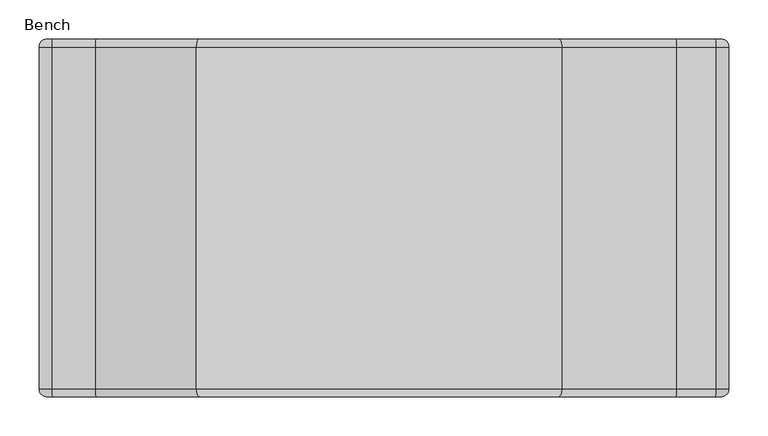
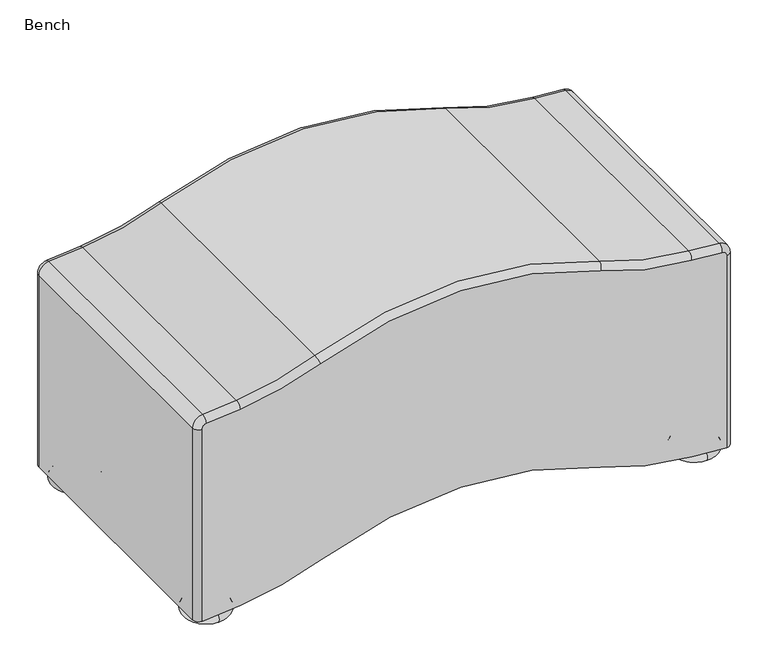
"""IFC4 building model written with IfcOpenShell, lengths in millimetres: furniture geometry, Steelcase Coalesse - Ripple - Seating - Little Ripple Wave Bench : Bench."""

from ifc_helpers import new_model, si_unit, point, frame, origin, place, context, project, spatial, polyline, circle_curve, ellipse_curve, trimmed, source, transform, mapped, element, save
from ifc_brep_helpers import plane_surface, cylinder_surface, revolved_surface, advanced_brep


def bench_b9d89473(model_context):
    return source(origin(), model_context, "Body", "AdvancedBrep", [
        advanced_brep(
        [(969.3020827, -550.5474749, 17.5807644), (914.9845406, -550.5474749, 22.2429666), (764.3826322, -550.5474749, 56.5722302), (307.1826322, -550.5474749, 56.5722302), (174.6739871, -550.5474749, 23.3737842), (114.1610712, -550.5474749, 18.0043345), (111.2850099, -550.5474749, 18.0043345), (111.2850099, -550.5474749, 350.8638395), (118.5982586, -550.5474749, 358.7938901), (174.3939967, -550.5474749, 363.783829), (306.0799806, -550.5474749, 396.7761672), (765.4852837, -550.5474749, 396.7761672), (915.1419897, -550.5474749, 362.6623597), (965.1060006, -550.5474749, 358.5032356), (972.1781439, -550.5474749, 350.5964285), (972.1781439, -550.5474749, 17.5807644), (114.1610712, -1007.7474749, 18.0043345), (174.6739871, -1007.7474749, 23.3737842), (307.1826322, -1007.7474749, 56.5722302), (764.3826322, -1007.7474749, 56.5722302), (914.9845406, -1007.7474749, 22.2429666), (969.3020827, -1007.7474749, 17.5807644), (972.0741492, -1007.7474749, 17.5807644), (972.0741492, -1007.7474749, 350.5964285), (965.0944468, -1007.7474749, 358.3998847), (915.1362965, -1007.7474749, 362.5585209), (765.4454132, -1007.7474749, 396.680119), (306.1198511, -1007.7474749, 396.680119), (174.4041208, -1007.7474749, 363.6803283), (118.6066609, -1007.7474749, 358.6902353), (111.3890046, -1007.7474749, 350.8638395), (111.3890046, -1007.7474749, 18.0043345), (982.2341492, -560.6034802, 17.5807644), (982.2341492, -997.5874749, 17.5807644), (982.2341492, -560.6034802, 350.5964285), (982.2341492, -997.5874749, 350.5964285), (966.2232222, -560.6034802, 368.4969866), (966.2232222, -997.5874749, 368.4969866), (915.6925025, -560.6034802, 372.7032849), (915.6925025, -997.5874749, 372.7032849), (769.3406499, -560.6034802, 406.0637607), (769.3406499, -997.5874749, 406.0637607), (302.2246143, -560.6034802, 406.0637607), (302.2246143, -997.5874749, 406.0637607), (173.4150243, -560.6034802, 373.7920684), (173.4150243, -997.5874749, 373.7920684), (117.7857804, -560.6034802, 368.8170194), (117.7857804, -997.5874749, 368.8170194), (101.2290046, -560.6034802, 350.8638395), (101.2290046, -997.5874749, 350.8638395), (101.2290046, -997.5874749, 18.0043345), (101.2290046, -560.6034802, 18.0043345)],
        [
            (0, 1, circle_curve(frame((866.6058872, -550.5474749, -860.1458934), z_axis=(0.0, -1.0, 0.0), x_axis=(1.0, 0.0, 0.0)), 883.7140909)),
            (1, 2, circle_curve(frame((940.0713693, -550.5474749, 479.8071327), z_axis=(0.0, 1.0, 0.0), x_axis=(1.0, 0.0, 0.0)), 458.2513667)),
            (2, 3, circle_curve(frame((535.7826322, -550.5474749, -494.1261256), z_axis=(0.0, -1.0, 0.0), x_axis=(1.0, 0.0, 0.0)), 596.2605464)),
            (3, 4, circle_curve(frame((129.5750519, -550.5474749, 484.4296338), z_axis=(0.0, 1.0, 0.0), x_axis=(1.0, 0.0, 0.0)), 463.2563117)),
            (4, 5, circle_curve(frame((-153.6804877, -550.5474749, 3380.2102751), z_axis=(0.0, 1.0, 0.0), x_axis=(1.0, 0.0, 0.0)), 3372.8575255)),
            (5, 6),
            (6, 7),
            (7, 8, circle_curve(frame((119.2410712, -550.5474749, 350.8638395), z_axis=(0.0, 1.0, 0.0), x_axis=(-0.08079532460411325, 0.0, 0.9967307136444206)), 7.9560612)),
            (8, 9, circle_curve(frame((-153.6804877, -550.5474749, 3717.7579199), z_axis=(0.0, -1.0, 0.0), x_axis=(0.09735201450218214, 0.0, -0.9952500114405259)), 3369.9814643)),
            (9, 10, circle_curve(frame((129.5750519, -550.5474749, 821.9772786), z_axis=(0.0, -1.0, 0.0), x_axis=(0.3833894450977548, 0.0, -0.923586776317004)), 460.3802505)),
            (10, 11, circle_curve(frame((535.7826321, -550.5474749, -156.5784808), z_axis=(0.0, 1.0, 0.0), x_axis=(0.38338944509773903, 0.0, 0.9235867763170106)), 599.1366076)),
            (11, 12, circle_curve(frame((940.0713693, -550.5474749, 817.3547775), z_axis=(0.0, -1.0, 0.0), x_axis=(-0.054744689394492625, 0.0, -0.9985003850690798)), 455.3753054)),
            (12, 13, circle_curve(frame((866.6058872, -550.5474749, -522.5982486), z_axis=(0.0, 1.0, 0.0), x_axis=(0.11109994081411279, 0.0, 0.9938092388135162)), 886.5901521)),
            (13, 14, circle_curve(frame((964.2220827, -550.5474749, 350.5964285), z_axis=(0.0, 1.0, 0.0), x_axis=(1.0, 0.0, 0.0)), 7.9560612)),
            (14, 15),
            (15, 0),
            (16, 17, circle_curve(frame((-153.6804877, -1007.7474749, 3380.2102751), z_axis=(0.0, -1.0, 0.0), x_axis=(1.0, 0.0, 0.0)), 3372.8575255)),
            (17, 18, circle_curve(frame((129.5750519, -1007.7474749, 484.4296338), z_axis=(0.0, -1.0, 0.0), x_axis=(1.0, 0.0, 0.0)), 463.2563117)),
            (18, 19, circle_curve(frame((535.7826322, -1007.7474749, -494.1261256), z_axis=(0.0, 1.0, 0.0), x_axis=(1.0, 0.0, 0.0)), 596.2605464)),
            (19, 20, circle_curve(frame((940.0713693, -1007.7474749, 479.8071327), z_axis=(0.0, -1.0, 0.0), x_axis=(1.0, 0.0, 0.0)), 458.2513667)),
            (20, 21, circle_curve(frame((866.6058872, -1007.7474749, -860.1458934), z_axis=(0.0, 1.0, 0.0), x_axis=(1.0, 0.0, 0.0)), 883.7140909)),
            (21, 22),
            (22, 23),
            (23, 24, circle_curve(frame((964.2220827, -1007.7474749, 350.5964285), z_axis=(0.0, -1.0, 0.0), x_axis=(1.0, 0.0, 0.0)), 7.8520665)),
            (24, 25, circle_curve(frame((866.6058872, -1007.7474749, -522.5982486), z_axis=(0.0, -1.0, 0.0), x_axis=(0.11109994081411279, 0.0, 0.9938092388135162)), 886.4861574)),
            (25, 26, circle_curve(frame((940.0713693, -1007.7474749, 817.3547775), z_axis=(0.0, 1.0, 0.0), x_axis=(-0.054744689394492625, 0.0, -0.9985003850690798)), 455.4793001)),
            (26, 27, circle_curve(frame((535.7826321, -1007.7474749, -156.5784808), z_axis=(0.0, -1.0, 0.0), x_axis=(0.38338944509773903, 0.0, 0.9235867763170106)), 599.0326129)),
            (27, 28, circle_curve(frame((129.5750519, -1007.7474749, 821.9772786), z_axis=(0.0, 1.0, 0.0), x_axis=(0.3833894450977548, 0.0, -0.923586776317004)), 460.4842452)),
            (28, 29, circle_curve(frame((-153.6804877, -1007.7474749, 3717.7579199), z_axis=(0.0, 1.0, 0.0), x_axis=(0.09735201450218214, 0.0, -0.9952500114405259)), 3370.085459)),
            (29, 30, circle_curve(frame((119.2410712, -1007.7474749, 350.8638395), z_axis=(0.0, -1.0, 0.0), x_axis=(-0.08079532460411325, 0.0, 0.9967307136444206)), 7.8520665)),
            (30, 31),
            (31, 16),
            (0, 21),
            (20, 1),
            (19, 2),
            (18, 3),
            (17, 4),
            (16, 5),
            (15, 32, circle_curve(frame((972.1781439, -560.6034802, 17.5807644), z_axis=(0.0, 0.0, -1.0), x_axis=(0.0, -1.0, 0.0)), 10.0560053)),
            (32, 33),
            (33, 22, circle_curve(frame((972.0741492, -997.5874749, 17.5807644), z_axis=(0.0, 0.0, -1.0), x_axis=(0.0, -1.0, 0.0)), 10.16)),
            (14, 34, circle_curve(frame((972.1781439, -560.6034802, 350.5964285), z_axis=(0.0, 0.0, -1.0), x_axis=(0.0, -1.0, 0.0)), 10.0560053)),
            (34, 32),
            (34, 35),
            (35, 33),
            (35, 23, circle_curve(frame((972.0741492, -997.5874749, 350.5964285), z_axis=(0.0, 0.0, -1.0), x_axis=(0.0, -1.0, 0.0)), 10.16)),
            (13, 36, circle_curve(frame((965.1060006, -560.6034802, 358.5032356), z_axis=(0.99380923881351, 0.0, -0.11109994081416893), x_axis=(0.0, -1.0, 0.0)), 10.0560053)),
            (36, 34, circle_curve(frame((964.2220827, -560.6034802, 350.5964285), z_axis=(0.0, 1.0, 0.0), x_axis=(1.0, 0.0, 0.0)), 18.0120665)),
            (36, 37),
            (37, 35, circle_curve(frame((964.2220827, -997.5874749, 350.5964285), z_axis=(0.0, 1.0, 0.0), x_axis=(1.0, 0.0, 0.0)), 18.0120665)),
            (37, 24, circle_curve(frame((965.0944468, -997.5874749, 358.3998847), z_axis=(0.9938092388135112, 0.0, -0.1110999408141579), x_axis=(0.0, -1.0, 0.0)), 10.16)),
            (12, 38, circle_curve(frame((915.1419897, -560.6034802, 362.6623597), z_axis=(0.9985003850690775, 0.0, -0.054744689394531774), x_axis=(0.0, -1.0, 0.0)), 10.0560053)),
            (38, 36, circle_curve(frame((866.6058872, -560.6034802, -522.5982486), z_axis=(0.0, 1.0, 0.0), x_axis=(0.11109994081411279, 0.0, 0.9938092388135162)), 896.6461574)),
            (38, 39),
            (39, 37, circle_curve(frame((866.6058872, -997.5874749, -522.5982486), z_axis=(0.0, 1.0, 0.0), x_axis=(0.11109994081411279, 0.0, 0.9938092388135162)), 896.6461574)),
            (39, 25, circle_curve(frame((915.1362965, -997.5874749, 362.5585209), z_axis=(0.9985003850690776, 0.0, -0.05474468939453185), x_axis=(0.0, -1.0, 0.0)), 10.16)),
            (11, 40, circle_curve(frame((765.4852837, -560.6034802, 396.7761672), z_axis=(0.9235867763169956, 0.0, -0.3833894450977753), x_axis=(0.0, -1.0, 0.0)), 10.0560053)),
            (40, 38, circle_curve(frame((940.0713693, -560.6034802, 817.3547775), z_axis=(0.0, -1.0, 0.0), x_axis=(-0.054744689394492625, 0.0, -0.9985003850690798)), 445.3193001)),
            (40, 41),
            (41, 39, circle_curve(frame((940.0713693, -997.5874749, 817.3547775), z_axis=(0.0, -1.0, 0.0), x_axis=(-0.054744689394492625, 0.0, -0.9985003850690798)), 445.3193001)),
            (41, 26, circle_curve(frame((765.4454132, -997.5874749, 396.680119), z_axis=(0.9235867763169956, 0.0, -0.3833894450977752), x_axis=(0.0, -1.0, 0.0)), 10.16)),
            (10, 42, circle_curve(frame((306.0799806, -560.6034802, 396.7761672), z_axis=(0.923586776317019, 0.0, 0.38338944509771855), x_axis=(0.0, -1.0, 0.0)), 10.0560053)),
            (42, 40, circle_curve(frame((535.7826321, -560.6034802, -156.5784808), z_axis=(0.0, 1.0, 0.0), x_axis=(0.38338944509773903, 0.0, 0.9235867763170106)), 609.1926129)),
            (42, 43),
            (43, 41, circle_curve(frame((535.7826321, -997.5874749, -156.5784808), z_axis=(0.0, 1.0, 0.0), x_axis=(0.38338944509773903, 0.0, 0.9235867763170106)), 609.1926129)),
            (43, 27, circle_curve(frame((306.1198511, -997.5874749, 396.680119), z_axis=(0.9235867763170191, 0.0, 0.3833894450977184), x_axis=(0.0, -1.0, 0.0)), 10.16)),
            (9, 44, circle_curve(frame((174.3939967, -560.6034802, 363.783829), z_axis=(0.9952500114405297, 0.0, 0.09735201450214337), x_axis=(0.0, -1.0, 0.0)), 10.0560053)),
            (44, 42, circle_curve(frame((129.5750519, -560.6034802, 821.9772786), z_axis=(0.0, -1.0, 0.0), x_axis=(0.3833894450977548, 0.0, -0.923586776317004)), 450.3242452)),
            (44, 45),
            (45, 43, circle_curve(frame((129.5750519, -997.5874749, 821.9772786), z_axis=(0.0, -1.0, 0.0), x_axis=(0.3833894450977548, 0.0, -0.923586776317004)), 450.3242452)),
            (45, 28, circle_curve(frame((174.4041208, -997.5874749, 363.6803283), z_axis=(0.9952500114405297, 0.0, 0.09735201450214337), x_axis=(0.0, -1.0, 0.0)), 10.16)),
            (8, 46, circle_curve(frame((118.5982586, -560.6034802, 358.7938901), z_axis=(0.996730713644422, 0.0, 0.08079532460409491), x_axis=(0.0, -1.0, 0.0)), 10.0560053)),
            (46, 44, circle_curve(frame((-153.6804877, -560.6034802, 3717.7579199), z_axis=(0.0, -1.0, 0.0), x_axis=(0.09735201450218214, 0.0, -0.9952500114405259)), 3359.925459)),
            (46, 47),
            (47, 45, circle_curve(frame((-153.6804877, -997.5874749, 3717.7579199), z_axis=(0.0, -1.0, 0.0), x_axis=(0.09735201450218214, 0.0, -0.9952500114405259)), 3359.925459)),
            (47, 29, circle_curve(frame((118.6066609, -997.5874749, 358.6902353), z_axis=(0.996730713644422, 0.0, 0.08079532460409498), x_axis=(0.0, -1.0, 0.0)), 10.16)),
            (7, 48, circle_curve(frame((111.2850099, -560.6034802, 350.8638395), z_axis=(0.0, 0.0, 0.9999999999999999), x_axis=(0.0, -1.0, 0.0)), 10.0560053)),
            (48, 46, circle_curve(frame((119.2410712, -560.6034802, 350.8638395), z_axis=(0.0, 1.0, 0.0), x_axis=(-0.08079532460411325, 0.0, 0.9967307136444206)), 18.0120665)),
            (48, 49),
            (49, 47, circle_curve(frame((119.2410712, -997.5874749, 350.8638395), z_axis=(0.0, 1.0, 0.0), x_axis=(-0.08079532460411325, 0.0, 0.9967307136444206)), 18.0120665)),
            (49, 30, circle_curve(frame((111.3890046, -997.5874749, 350.8638395), z_axis=(0.0, 0.0, 0.9999999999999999), x_axis=(0.0, -1.0, 0.0)), 10.16)),
            (31, 50, circle_curve(frame((111.3890046, -997.5874749, 18.0043345), z_axis=(0.0, 0.0, -1.0), x_axis=(0.0, -1.0, 0.0)), 10.16)),
            (50, 51),
            (51, 6, circle_curve(frame((111.2850099, -560.6034802, 18.0043345), z_axis=(0.0, 0.0, -1.0), x_axis=(0.0, -1.0, 0.0)), 10.0560053)),
            (51, 48),
            (50, 49),
        ],
        [
            plane_surface(frame((1398.322736, -550.5474749, 817.3547775), z_axis=(0.0, 1.0, 0.0), x_axis=(0.0, 0.0, 1.0))),
            plane_surface(frame((1398.322736, -1007.7474749, 817.3547775), z_axis=(0.0, -1.0, 0.0), x_axis=(0.0, 0.0, -1.0))),
            revolved_surface(polyline([(1750.3199780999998, -1007.7474749, -860.1458934), (1750.3199780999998, -550.5474749, -860.1458934)]), (866.6058872, -1007.7474749, -860.1458934), (0.0, -1.0, 0.0)),
            cylinder_surface(frame((940.0713693, -1007.7474749, 479.8071327), z_axis=(0.0, 1.0, 0.0), x_axis=(1.0, 0.0, 0.0)), 458.2513667),
            revolved_surface(polyline([(1132.0431786, -1007.7474749, -494.1261256), (1132.0431786, -550.5474749, -494.1261256)]), (535.7826322, -1007.7474749, -494.1261256), (0.0, -1.0, 0.0)),
            cylinder_surface(frame((129.5750519, -1007.7474749, 484.4296338), z_axis=(0.0, 1.0, 0.0), x_axis=(1.0, 0.0, 0.0)), 463.2563117),
            cylinder_surface(frame((-153.6804877, -1007.7474749, 3380.2102751), z_axis=(0.0, 1.0, 0.0), x_axis=(1.0, 0.0, 0.0)), 3372.8575255),
            plane_surface(frame((969.3020827, -1007.7474749, 17.5807644), z_axis=(0.0, 0.0, -1.0), x_axis=(0.0, 1.0, 0.0))),
            cylinder_surface(frame((972.1781439, -560.6034802, 17.5807644), z_axis=(0.0, 0.0, -1.0), x_axis=(0.0, -1.0, 0.0)), 10.0560053),
            plane_surface(frame((982.2341492, -560.6034802, 17.5807644), z_axis=(1.0, 0.0, 0.0), x_axis=(0.0, 0.0, 1.0))),
            cylinder_surface(frame((972.0741492, -997.5874749, 17.5807644), z_axis=(0.0, 0.0, -1.0), x_axis=(0.0, -1.0, 0.0)), 10.16),
            revolved_surface(trimmed(ellipse_curve(frame((972.1781439, -560.6034802, 350.5964285), z_axis=(0.0, 0.0, -1.0), x_axis=(0.0, -1.0, 0.0)), 10.0560053, 10.0560053), [point((972.1781439, -550.5474749, 350.5964285))], [point((982.2341492, -560.6034802, 350.5964285))], True, "CARTESIAN"), (964.2220827, -1007.7474749, 350.5964285), (0.0, -1.0, 0.0)),
            cylinder_surface(frame((964.2220827, -1007.7474749, 350.5964285), z_axis=(0.0, -1.0, 0.0), x_axis=(1.0, 0.0, 0.0)), 18.0120665),
            revolved_surface(trimmed(ellipse_curve(frame((972.0741492, -997.5874749, 350.5964285), z_axis=(0.0, 0.0, -1.0), x_axis=(0.0, -1.0, 0.0)), 10.16, 10.16), [point((982.2341492, -997.5874749, 350.5964285))], [point((972.0741492, -1007.7474749, 350.5964285))], True, "CARTESIAN"), (964.2220827, -1007.7474749, 350.5964285), (0.0, -1.0, 0.0)),
            revolved_surface(trimmed(ellipse_curve(frame((965.1060006, -560.6034802, 358.5032356), z_axis=(0.9938092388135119, 0.0, -0.11109994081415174), x_axis=(0.0, -1.0, 0.0)), 10.0560053, 10.0560053), [point((965.1060006, -550.5474749, 358.5032356))], [point((966.2232222, -560.6034802, 368.4969866))], True, "CARTESIAN"), (866.6058872, -1007.7474749, -522.5982486), (0.0, -1.0, 0.0)),
            cylinder_surface(frame((866.6058872, -1007.7474749, -522.5982486), z_axis=(0.0, -1.0, 0.0), x_axis=(0.11109994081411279, 0.0, 0.9938092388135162)), 896.6461574),
            revolved_surface(trimmed(ellipse_curve(frame((965.0944468, -997.5874749, 358.3998847), z_axis=(0.9938092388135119, 0.0, -0.11109994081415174), x_axis=(0.0, -1.0, 0.0)), 10.16, 10.16), [point((966.2232222, -997.5874749, 368.4969866))], [point((965.0944468, -1007.7474749, 358.3998847))], True, "CARTESIAN"), (866.6058872, -1007.7474749, -522.5982486), (0.0, -1.0, 0.0)),
            revolved_surface(trimmed(ellipse_curve(frame((915.1419897, -560.6034802, 362.6623597), z_axis=(0.9985003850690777, 0.0, -0.05474468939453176), x_axis=(0.0, -1.0, 0.0)), 10.0560053, 10.0560053), [point((915.1419897, -550.5474749, 362.6623597))], [point((915.6925025, -560.6034802, 372.7032849))], True, "CARTESIAN"), (940.0713693, -1007.7474749, 817.3547775), (0.0, 1.0, 0.0)),
            revolved_surface(polyline([(915.6925025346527, -560.6034802, 372.70328487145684), (915.6925025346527, -997.5874749, 372.70328487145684)]), (940.0713693, -1007.7474749, 817.3547775), (0.0, 1.0, 0.0)),
            revolved_surface(trimmed(ellipse_curve(frame((915.1362965, -997.5874749, 362.5585209), z_axis=(0.9985003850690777, 0.0, -0.05474468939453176), x_axis=(0.0, -1.0, 0.0)), 10.16, 10.16), [point((915.6925025, -997.5874749, 372.7032849))], [point((915.1362965, -1007.7474749, 362.5585209))], True, "CARTESIAN"), (940.0713693, -1007.7474749, 817.3547775), (0.0, 1.0, 0.0)),
            revolved_surface(trimmed(ellipse_curve(frame((765.4852837, -560.6034802, 396.7761672), z_axis=(0.9235867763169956, 0.0, -0.38338944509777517), x_axis=(0.0, -1.0, 0.0)), 10.0560053, 10.0560053), [point((765.4852837, -550.5474749, 396.7761672))], [point((769.3406499, -560.6034802, 406.0637607))], True, "CARTESIAN"), (535.7826321, -1007.7474749, -156.5784808), (0.0, -1.0, 0.0)),
            cylinder_surface(frame((535.7826321, -1007.7474749, -156.5784808), z_axis=(0.0, -1.0, 0.0), x_axis=(0.38338944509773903, 0.0, 0.9235867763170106)), 609.1926129),
            revolved_surface(trimmed(ellipse_curve(frame((765.4454132, -997.5874749, 396.680119), z_axis=(0.9235867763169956, 0.0, -0.38338944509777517), x_axis=(0.0, -1.0, 0.0)), 10.16, 10.16), [point((769.3406499, -997.5874749, 406.0637607))], [point((765.4454132, -1007.7474749, 396.680119))], True, "CARTESIAN"), (535.7826321, -1007.7474749, -156.5784808), (0.0, -1.0, 0.0)),
            revolved_surface(trimmed(ellipse_curve(frame((306.0799806, -560.6034802, 396.7761672), z_axis=(0.923586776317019, 0.0, 0.3833894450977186), x_axis=(0.0, -1.0, 0.0)), 10.0560053, 10.0560053), [point((306.0799806, -550.5474749, 396.7761672))], [point((302.2246143, -560.6034802, 406.0637607))], True, "CARTESIAN"), (129.5750519, -1007.7474749, 821.9772786), (0.0, 1.0, 0.0)),
            revolved_surface(polyline([(302.22461438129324, -560.6034802, 406.0637606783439), (302.22461438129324, -997.5874749, 406.0637606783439)]), (129.5750519, -1007.7474749, 821.9772786), (0.0, 1.0, 0.0)),
            revolved_surface(trimmed(ellipse_curve(frame((306.1198511, -997.5874749, 396.680119), z_axis=(0.923586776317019, 0.0, 0.3833894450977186), x_axis=(0.0, -1.0, 0.0)), 10.16, 10.16), [point((302.2246143, -997.5874749, 406.0637607))], [point((306.1198511, -1007.7474749, 396.680119))], True, "CARTESIAN"), (129.5750519, -1007.7474749, 821.9772786), (0.0, 1.0, 0.0)),
            revolved_surface(trimmed(ellipse_curve(frame((174.3939967, -560.6034802, 363.783829), z_axis=(0.9952500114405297, 0.0, 0.09735201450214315), x_axis=(0.0, -1.0, 0.0)), 10.0560053, 10.0560053), [point((174.3939967, -550.5474749, 363.783829))], [point((173.4150243, -560.6034802, 373.7920684))], True, "CARTESIAN"), (-153.6804877, -1007.7474749, 3717.7579199), (0.0, 1.0, 0.0)),
            revolved_surface(polyline([(173.415024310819, -560.6034802, 373.7920683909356), (173.415024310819, -997.5874749, 373.7920683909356)]), (-153.6804877, -1007.7474749, 3717.7579199), (0.0, 1.0, 0.0)),
            revolved_surface(trimmed(ellipse_curve(frame((174.4041208, -997.5874749, 363.6803283), z_axis=(0.9952500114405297, 0.0, 0.09735201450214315), x_axis=(0.0, -1.0, 0.0)), 10.16, 10.16), [point((173.4150243, -997.5874749, 373.7920684))], [point((174.4041208, -1007.7474749, 363.6803283))], True, "CARTESIAN"), (-153.6804877, -1007.7474749, 3717.7579199), (0.0, 1.0, 0.0)),
            revolved_surface(trimmed(ellipse_curve(frame((118.5982586, -560.6034802, 358.7938901), z_axis=(0.9967307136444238, 0.0, 0.0807953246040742), x_axis=(0.0, -1.0, 0.0)), 10.0560053, 10.0560053), [point((118.5982586, -550.5474749, 358.7938901))], [point((117.7857804, -560.6034802, 368.8170194))], True, "CARTESIAN"), (119.2410712, -1007.7474749, 350.8638395), (0.0, -1.0, 0.0)),
            cylinder_surface(frame((119.2410712, -1007.7474749, 350.8638395), z_axis=(0.0, -1.0, 0.0), x_axis=(-0.08079532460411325, 0.0, 0.9967307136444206)), 18.0120665),
            revolved_surface(trimmed(ellipse_curve(frame((118.6066609, -997.5874749, 358.6902353), z_axis=(0.9967307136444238, 0.0, 0.0807953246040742), x_axis=(0.0, -1.0, 0.0)), 10.16, 10.16), [point((117.7857804, -997.5874749, 368.8170194))], [point((118.6066609, -1007.7474749, 358.6902353))], True, "CARTESIAN"), (119.2410712, -1007.7474749, 350.8638395), (0.0, -1.0, 0.0)),
            plane_surface(frame((114.1610712, -1007.7474749, 18.0043345), z_axis=(0.0, 0.0, -1.0), x_axis=(0.0, 1.0, 0.0))),
            cylinder_surface(frame((111.2850099, -560.6034802, 350.8638395), z_axis=(0.0, 0.0, 1.0), x_axis=(0.0, -1.0, 0.0)), 10.0560053),
            plane_surface(frame((101.2290046, -560.6034802, 350.8638395), z_axis=(-1.0, 0.0, 0.0), x_axis=(0.0, 0.0, -1.0))),
            cylinder_surface(frame((111.3890046, -997.5874749, 350.8638395), z_axis=(0.0, 0.0, 1.0), x_axis=(0.0, -1.0, 0.0)), 10.16),
        ],
        [
            (0, [[1, 2, 3, 4, 5, 6, 7, 8, 9, 10, 11, 12, 13, 14, 15, 16]]),
            (1, [[17, 18, 19, 20, 21, 22, 23, 24, 25, 26, 27, 28, 29, 30, 31, 32]]),
            (2, [[-1, 33, -21, 34]]),
            (3, [[-2, -34, -20, 35]]),
            (4, [[-3, -35, -19, 36]]),
            (5, [[-4, -36, -18, 37]]),
            (6, [[-5, -37, -17, 38]]),
            (7, [[-16, 39, 40, 41, -22, -33]]),
            (8, [[-39, -15, 42, 43]]),
            (9, [[-40, -43, 44, 45]]),
            (10, [[-41, -45, 46, -23]]),
            (11, [[-14, 47, 48, -42]]),
            (12, [[-44, -48, 49, 50]]),
            (13, [[-46, -50, 51, -24]]),
            (14, [[-13, 52, 53, -47]]),
            (15, [[-49, -53, 54, 55]]),
            (16, [[-25, -51, -55, 56]]),
            (17, [[-12, 57, 58, -52]]),
            (18, [[-54, -58, 59, 60]]),
            (19, [[-26, -56, -60, 61]]),
            (20, [[-11, 62, 63, -57]]),
            (21, [[-59, -63, 64, 65]]),
            (22, [[-27, -61, -65, 66]]),
            (23, [[-10, 67, 68, -62]]),
            (24, [[-64, -68, 69, 70]]),
            (25, [[-28, -66, -70, 71]]),
            (26, [[-9, 72, 73, -67]]),
            (27, [[-69, -73, 74, 75]]),
            (28, [[-29, -71, -75, 76]]),
            (29, [[-8, 77, 78, -72]]),
            (30, [[-74, -78, 79, 80]]),
            (31, [[-30, -76, -80, 81]]),
            (32, [[-6, -38, -32, 82, 83, 84]]),
            (33, [[-7, -84, 85, -77]]),
            (34, [[-79, -85, -83, 86]]),
            (35, [[-31, -81, -86, -82]]),
        ],
    ),
        advanced_brep(
        [(943.7768932, -603.9623377, 27.8326936), (943.7768932, -581.2401781, 27.8326936), (943.7768932, -592.6012579, 27.8326936), (943.7768932, -603.9623377, 14.0062856), (943.7768932, -581.2401781, 14.0062856), (943.7768932, -624.2272914, 14.0062856), (943.7768932, -560.9752244, 14.0062856), (943.7768932, -624.2272914, 0.0), (943.7768932, -560.9752244, 0.0), (943.7768932, -592.6012579, 0.0)],
        [
            (0, 1, circle_curve(frame((943.7768932, -592.6012579, 27.8326936), z_axis=(0.0, 0.0, 1.0), x_axis=(0.0, 1.0, 0.0)), 11.3610798)),
            (1, 2),
            (2, 0),
            (1, 0, circle_curve(frame((943.7768932, -592.6012579, 27.8326936), z_axis=(0.0, 0.0, 1.0), x_axis=(0.0, 1.0, 0.0)), 11.3610798)),
            (3, 4, circle_curve(frame((943.7768932, -592.6012579, 14.0062856), z_axis=(0.0, 0.0, 1.0), x_axis=(0.0, 1.0, 0.0)), 11.3610798)),
            (4, 1),
            (0, 3),
            (4, 3, circle_curve(frame((943.7768932, -592.6012579, 14.0062856), z_axis=(0.0, 0.0, 1.0), x_axis=(0.0, 1.0, 0.0)), 11.3610798)),
            (5, 6, circle_curve(frame((943.7768932, -592.6012579, 14.0062856), z_axis=(0.0, 0.0, 1.0), x_axis=(0.0, 1.0, 0.0)), 31.6260335)),
            (6, 4),
            (3, 5),
            (6, 5, circle_curve(frame((943.7768932, -592.6012579, 14.0062856), z_axis=(0.0, 0.0, 1.0), x_axis=(0.0, 1.0, 0.0)), 31.6260335)),
            (7, 8, circle_curve(frame((943.7768932, -592.6012579, 0.0), z_axis=(0.0, 0.0, 1.0), x_axis=(0.0, 1.0, 0.0)), 31.6260335)),
            (8, 6, circle_curve(frame((943.7768932, -560.9752244, 7.0031428), z_axis=(1.0, 0.0, 0.0), x_axis=(0.0, -1.0, 0.0)), 7.0031428)),
            (5, 7, circle_curve(frame((943.7768932, -624.2272914, 7.0031428), z_axis=(1.0, 0.0, 0.0), x_axis=(0.0, 1.0, 0.0)), 7.0031428)),
            (8, 7, circle_curve(frame((943.7768932, -592.6012579, 0.0), z_axis=(0.0, 0.0, 1.0), x_axis=(0.0, 1.0, 0.0)), 31.6260335)),
            (9, 8),
            (7, 9),
        ],
        [
            plane_surface(frame((943.7768932, -592.6012579, 27.8326936), z_axis=(0.0, 0.0, 1.0), x_axis=(0.0, 1.0, 0.0))),
            cylinder_surface(frame((943.7768932, -592.6012579, 34.264853), z_axis=(0.0, 0.0, -1.0), x_axis=(0.0, 1.0, 0.0)), 11.3610798),
            plane_surface(frame((943.7768932, -592.6012579, 14.0062856), z_axis=(0.0, 0.0, 1.0), x_axis=(0.0, 1.0, 0.0))),
            revolved_surface(trimmed(ellipse_curve(frame((943.7768932, -560.9752244, 7.0031428), z_axis=(-1.0, 0.0, 0.0), x_axis=(0.0, -1.0, 0.0)), 7.0031428, 7.0031428), [point((943.7768932, -560.9752244, 14.0062856))], [point((943.7768932, -560.9752244, 0.0))], True, "CARTESIAN"), (943.7768932, -592.6012579, 34.264853), (0.0, 0.0, -1.0)),
            plane_surface(frame((943.7768932, -592.6012579, 0.0), z_axis=(0.0, 0.0, -1.0), x_axis=(0.0, 1.0, 0.0))),
        ],
        [
            (0, [[1, 2, 3]]),
            (0, [[4, -3, -2]]),
            (1, [[5, 6, -1, 7]]),
            (1, [[8, -7, -4, -6]]),
            (2, [[9, 10, -5, 11]]),
            (2, [[12, -11, -8, -10]]),
            (3, [[13, 14, -9, 15]]),
            (3, [[16, -15, -12, -14]]),
            (4, [[17, -13, 18]]),
            (4, [[-18, -16, -17]]),
        ],
    ),
        advanced_brep(
        [(943.7768932, -976.2526465, 27.8326936), (943.7768932, -953.5304869, 27.8326936), (943.7768932, -964.8915667, 27.8326936), (943.7768932, -976.2526465, 14.0062856), (943.7768932, -953.5304869, 14.0062856), (943.7768932, -996.5176002, 14.0062856), (943.7768932, -933.2655332, 14.0062856), (943.7768932, -996.5176002, 0.0), (943.7768932, -933.2655332, 0.0), (943.7768932, -964.8915667, 0.0)],
        [
            (0, 1, circle_curve(frame((943.7768932, -964.8915667, 27.8326936), z_axis=(0.0, 0.0, 1.0), x_axis=(0.0, 1.0, 0.0)), 11.3610798)),
            (1, 2),
            (2, 0),
            (1, 0, circle_curve(frame((943.7768932, -964.8915667, 27.8326936), z_axis=(0.0, 0.0, 1.0), x_axis=(0.0, 1.0, 0.0)), 11.3610798)),
            (3, 4, circle_curve(frame((943.7768932, -964.8915667, 14.0062856), z_axis=(0.0, 0.0, 1.0), x_axis=(0.0, 1.0, 0.0)), 11.3610798)),
            (4, 1),
            (0, 3),
            (4, 3, circle_curve(frame((943.7768932, -964.8915667, 14.0062856), z_axis=(0.0, 0.0, 1.0), x_axis=(0.0, 1.0, 0.0)), 11.3610798)),
            (5, 6, circle_curve(frame((943.7768932, -964.8915667, 14.0062856), z_axis=(0.0, 0.0, 1.0), x_axis=(0.0, 1.0, 0.0)), 31.6260335)),
            (6, 4),
            (3, 5),
            (6, 5, circle_curve(frame((943.7768932, -964.8915667, 14.0062856), z_axis=(0.0, 0.0, 1.0), x_axis=(0.0, 1.0, 0.0)), 31.6260335)),
            (7, 8, circle_curve(frame((943.7768932, -964.8915667, 0.0), z_axis=(0.0, 0.0, 1.0), x_axis=(0.0, 1.0, 0.0)), 31.6260335)),
            (8, 6, circle_curve(frame((943.7768932, -933.2655332, 7.0031428), z_axis=(1.0, 0.0, 0.0), x_axis=(0.0, -1.0, 0.0)), 7.0031428)),
            (5, 7, circle_curve(frame((943.7768932, -996.5176002, 7.0031428), z_axis=(1.0, 0.0, 0.0), x_axis=(0.0, 1.0, 0.0)), 7.0031428)),
            (8, 7, circle_curve(frame((943.7768932, -964.8915667, 0.0), z_axis=(0.0, 0.0, 1.0), x_axis=(0.0, 1.0, 0.0)), 31.6260335)),
            (9, 8),
            (7, 9),
        ],
        [
            plane_surface(frame((943.7768932, -964.8915667, 27.8326936), z_axis=(0.0, 0.0, 1.0), x_axis=(0.0, 1.0, 0.0))),
            cylinder_surface(frame((943.7768932, -964.8915667, 34.264853), z_axis=(0.0, 0.0, -1.0), x_axis=(0.0, 1.0, 0.0)), 11.3610798),
            plane_surface(frame((943.7768932, -964.8915667, 14.0062856), z_axis=(0.0, 0.0, 1.0), x_axis=(0.0, 1.0, 0.0))),
            revolved_surface(trimmed(ellipse_curve(frame((943.7768932, -933.2655332, 7.0031428), z_axis=(-1.0, 0.0, 0.0), x_axis=(0.0, -1.0, 0.0)), 7.0031428, 7.0031428), [point((943.7768932, -933.2655332, 14.0062856))], [point((943.7768932, -933.2655332, 0.0))], True, "CARTESIAN"), (943.7768932, -964.8915667, 34.264853), (0.0, 0.0, -1.0)),
            plane_surface(frame((943.7768932, -964.8915667, 0.0), z_axis=(0.0, 0.0, -1.0), x_axis=(0.0, 1.0, 0.0))),
        ],
        [
            (0, [[1, 2, 3]]),
            (0, [[4, -3, -2]]),
            (1, [[5, 6, -1, 7]]),
            (1, [[8, -7, -4, -6]]),
            (2, [[9, 10, -5, 11]]),
            (2, [[12, -11, -8, -10]]),
            (3, [[13, 14, -9, 15]]),
            (3, [[16, -15, -12, -14]]),
            (4, [[17, -13, 18]]),
            (4, [[-18, -16, -17]]),
        ],
    ),
        advanced_brep(
        [(142.3215165, -603.9623377, 27.8326936), (142.3215165, -581.2401781, 27.8326936), (142.3215165, -592.6012579, 27.8326936), (142.3215165, -603.9623377, 14.0062856), (142.3215165, -581.2401781, 14.0062856), (142.3215165, -624.2272914, 14.0062856), (142.3215165, -560.9752244, 14.0062856), (142.3215165, -624.2272914, 0.0), (142.3215165, -560.9752244, 0.0), (142.3215165, -592.6012579, 0.0)],
        [
            (0, 1, circle_curve(frame((142.3215165, -592.6012579, 27.8326936), z_axis=(0.0, 0.0, 1.0), x_axis=(0.0, 1.0, 0.0)), 11.3610798)),
            (1, 2),
            (2, 0),
            (1, 0, circle_curve(frame((142.3215165, -592.6012579, 27.8326936), z_axis=(0.0, 0.0, 1.0), x_axis=(0.0, 1.0, 0.0)), 11.3610798)),
            (3, 4, circle_curve(frame((142.3215165, -592.6012579, 14.0062856), z_axis=(0.0, 0.0, 1.0), x_axis=(0.0, 1.0, 0.0)), 11.3610798)),
            (4, 1),
            (0, 3),
            (4, 3, circle_curve(frame((142.3215165, -592.6012579, 14.0062856), z_axis=(0.0, 0.0, 1.0), x_axis=(0.0, 1.0, 0.0)), 11.3610798)),
            (5, 6, circle_curve(frame((142.3215165, -592.6012579, 14.0062856), z_axis=(0.0, 0.0, 1.0), x_axis=(0.0, 1.0, 0.0)), 31.6260335)),
            (6, 4),
            (3, 5),
            (6, 5, circle_curve(frame((142.3215165, -592.6012579, 14.0062856), z_axis=(0.0, 0.0, 1.0), x_axis=(0.0, 1.0, 0.0)), 31.6260335)),
            (7, 8, circle_curve(frame((142.3215165, -592.6012579, 0.0), z_axis=(0.0, 0.0, 1.0), x_axis=(0.0, 1.0, 0.0)), 31.6260335)),
            (8, 6, circle_curve(frame((142.3215165, -560.9752244, 7.0031428), z_axis=(1.0, 0.0, 0.0), x_axis=(0.0, -1.0, 0.0)), 7.0031428)),
            (5, 7, circle_curve(frame((142.3215165, -624.2272914, 7.0031428), z_axis=(1.0, 0.0, 0.0), x_axis=(0.0, 1.0, 0.0)), 7.0031428)),
            (8, 7, circle_curve(frame((142.3215165, -592.6012579, 0.0), z_axis=(0.0, 0.0, 1.0), x_axis=(0.0, 1.0, 0.0)), 31.6260335)),
            (9, 8),
            (7, 9),
        ],
        [
            plane_surface(frame((142.3215165, -592.6012579, 27.8326936), z_axis=(0.0, 0.0, 1.0), x_axis=(0.0, 1.0, 0.0))),
            cylinder_surface(frame((142.3215165, -592.6012579, 34.264853), z_axis=(0.0, 0.0, -1.0), x_axis=(0.0, 1.0, 0.0)), 11.3610798),
            plane_surface(frame((142.3215165, -592.6012579, 14.0062856), z_axis=(0.0, 0.0, 1.0), x_axis=(0.0, 1.0, 0.0))),
            revolved_surface(trimmed(ellipse_curve(frame((142.3215165, -560.9752244, 7.0031428), z_axis=(-1.0, 0.0, 0.0), x_axis=(0.0, -1.0, 0.0)), 7.0031428, 7.0031428), [point((142.3215165, -560.9752244, 14.0062856))], [point((142.3215165, -560.9752244, 0.0))], True, "CARTESIAN"), (142.3215165, -592.6012579, 34.264853), (0.0, 0.0, -1.0)),
            plane_surface(frame((142.3215165, -592.6012579, 0.0), z_axis=(0.0, 0.0, -1.0), x_axis=(0.0, 1.0, 0.0))),
        ],
        [
            (0, [[1, 2, 3]]),
            (0, [[4, -3, -2]]),
            (1, [[5, 6, -1, 7]]),
            (1, [[8, -7, -4, -6]]),
            (2, [[9, 10, -5, 11]]),
            (2, [[12, -11, -8, -10]]),
            (3, [[13, 14, -9, 15]]),
            (3, [[16, -15, -12, -14]]),
            (4, [[17, -13, 18]]),
            (4, [[-18, -16, -17]]),
        ],
    ),
        advanced_brep(
        [(142.3215165, -976.2526465, 27.8326936), (142.3215165, -953.5304869, 27.8326936), (142.3215165, -964.8915667, 27.8326936), (142.3215165, -976.2526465, 14.0062856), (142.3215165, -953.5304869, 14.0062856), (142.3215165, -996.5176002, 14.0062856), (142.3215165, -933.2655332, 14.0062856), (142.3215165, -996.5176002, 0.0), (142.3215165, -933.2655332, 0.0), (142.3215165, -964.8915667, 0.0)],
        [
            (0, 1, circle_curve(frame((142.3215165, -964.8915667, 27.8326936), z_axis=(0.0, 0.0, 1.0), x_axis=(0.0, 1.0, 0.0)), 11.3610798)),
            (1, 2),
            (2, 0),
            (1, 0, circle_curve(frame((142.3215165, -964.8915667, 27.8326936), z_axis=(0.0, 0.0, 1.0), x_axis=(0.0, 1.0, 0.0)), 11.3610798)),
            (3, 4, circle_curve(frame((142.3215165, -964.8915667, 14.0062856), z_axis=(0.0, 0.0, 1.0), x_axis=(0.0, 1.0, 0.0)), 11.3610798)),
            (4, 1),
            (0, 3),
            (4, 3, circle_curve(frame((142.3215165, -964.8915667, 14.0062856), z_axis=(0.0, 0.0, 1.0), x_axis=(0.0, 1.0, 0.0)), 11.3610798)),
            (5, 6, circle_curve(frame((142.3215165, -964.8915667, 14.0062856), z_axis=(0.0, 0.0, 1.0), x_axis=(0.0, 1.0, 0.0)), 31.6260335)),
            (6, 4),
            (3, 5),
            (6, 5, circle_curve(frame((142.3215165, -964.8915667, 14.0062856), z_axis=(0.0, 0.0, 1.0), x_axis=(0.0, 1.0, 0.0)), 31.6260335)),
            (7, 8, circle_curve(frame((142.3215165, -964.8915667, 0.0), z_axis=(0.0, 0.0, 1.0), x_axis=(0.0, 1.0, 0.0)), 31.6260335)),
            (8, 6, circle_curve(frame((142.3215165, -933.2655332, 7.0031428), z_axis=(1.0, 0.0, 0.0), x_axis=(0.0, -1.0, 0.0)), 7.0031428)),
            (5, 7, circle_curve(frame((142.3215165, -996.5176002, 7.0031428), z_axis=(1.0, 0.0, 0.0), x_axis=(0.0, 1.0, 0.0)), 7.0031428)),
            (8, 7, circle_curve(frame((142.3215165, -964.8915667, 0.0), z_axis=(0.0, 0.0, 1.0), x_axis=(0.0, 1.0, 0.0)), 31.6260335)),
            (9, 8),
            (7, 9),
        ],
        [
            plane_surface(frame((142.3215165, -964.8915667, 27.8326936), z_axis=(0.0, 0.0, 1.0), x_axis=(0.0, 1.0, 0.0))),
            cylinder_surface(frame((142.3215165, -964.8915667, 34.264853), z_axis=(0.0, 0.0, -1.0), x_axis=(0.0, 1.0, 0.0)), 11.3610798),
            plane_surface(frame((142.3215165, -964.8915667, 14.0062856), z_axis=(0.0, 0.0, 1.0), x_axis=(0.0, 1.0, 0.0))),
            revolved_surface(trimmed(ellipse_curve(frame((142.3215165, -933.2655332, 7.0031428), z_axis=(-1.0, 0.0, 0.0), x_axis=(0.0, -1.0, 0.0)), 7.0031428, 7.0031428), [point((142.3215165, -933.2655332, 14.0062856))], [point((142.3215165, -933.2655332, 0.0))], True, "CARTESIAN"), (142.3215165, -964.8915667, 34.264853), (0.0, 0.0, -1.0)),
            plane_surface(frame((142.3215165, -964.8915667, 0.0), z_axis=(0.0, 0.0, -1.0), x_axis=(0.0, 1.0, 0.0))),
        ],
        [
            (0, [[1, 2, 3]]),
            (0, [[4, -3, -2]]),
            (1, [[5, 6, -1, 7]]),
            (1, [[8, -7, -4, -6]]),
            (2, [[9, 10, -5, 11]]),
            (2, [[12, -11, -8, -10]]),
            (3, [[13, 14, -9, 15]]),
            (3, [[16, -15, -12, -14]]),
            (4, [[17, -13, 18]]),
            (4, [[-18, -16, -17]]),
        ],
    ),
    ])


if __name__ == "__main__":
    model = new_model("IFC4")
    model_context = context("Model", 3, world=origin())
    ifc_project = project(units=[si_unit("LENGTHUNIT", "METRE", prefix="MILLI")], contexts=[model_context])
    site = spatial("IfcSite", under=ifc_project)
    building = spatial("IfcBuilding", under=site)
    placement = place(None, origin())
    bench_shape = bench_b9d89473(model_context)
    element("IfcFurniture", 1, ObjectType="Steelcase Coalesse - Ripple - Seating - Little Ripple Wave Bench : Bench", at=placement, inside=building, context=model_context, shape_type="MappedRepresentation", body=[
        mapped(bench_shape, transform((0.0, 0.0, 0.0), x_axis=(1.0, 0.0, 0.0), y_axis=(0.0, 1.0, 0.0), z_axis=(0.0, 0.0, 1.0))),
    ])
    save(model, "model.ifc")
